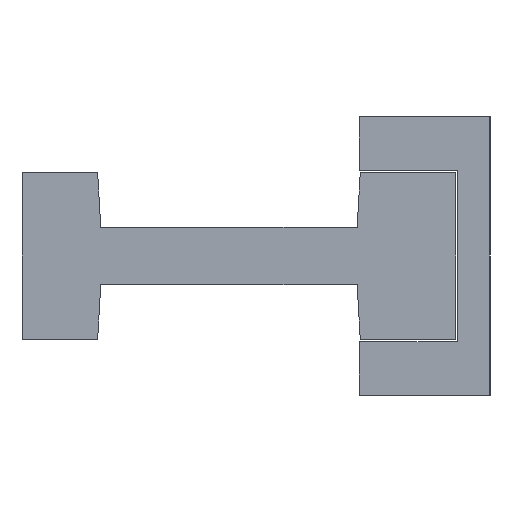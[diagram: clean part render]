
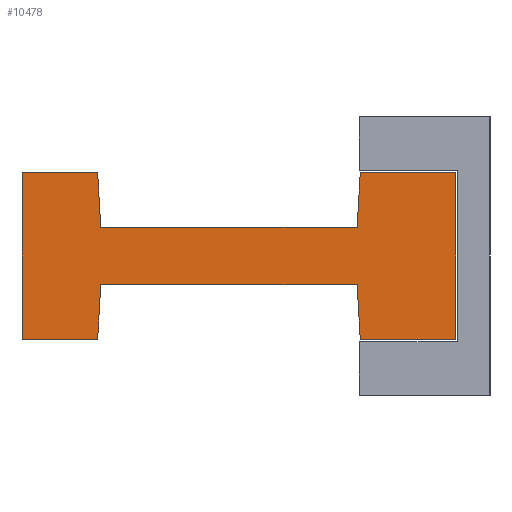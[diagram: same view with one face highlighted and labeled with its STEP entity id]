
A CAD part, left-side view. The second image highlights one B-rep face of the part: STEP entity #10478.
In plain terms, the highlighted planar face has unit normal (-1, 0, 0) as drawn and (0, 0, 1) by its records, which use the part's own axes.
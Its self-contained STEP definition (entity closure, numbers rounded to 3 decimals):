
#429 = CARTESIAN_POINT ( 'NONE',  ( 10.45, 0., 181. ) ) ;
#460 = EDGE_CURVE ( 'NONE', #13954, #5706, #6057, .T. ) ;
#538 = DIRECTION ( 'NONE',  ( 0., 1., 0. ) ) ;
#1276 = ORIENTED_EDGE ( 'NONE', *, *, #460, .T. ) ;
#2059 = DIRECTION ( 'NONE',  ( 0., 1., 0. ) ) ;
#2194 = EDGE_CURVE ( 'NONE', #10190, #26938, #25759, .T. ) ;
#2907 = DIRECTION ( 'NONE',  ( 0., 1., 0. ) ) ;
#3358 = CARTESIAN_POINT ( 'NONE',  ( -10.45, 42.5, 181. ) ) ;
#3416 = VERTEX_POINT ( 'NONE', #35796 ) ;
#3604 = CARTESIAN_POINT ( 'NONE',  ( 10.45, 9.5, 181. ) ) ;
#5528 = CARTESIAN_POINT ( 'NONE',  ( -10.45, 9.5, 181. ) ) ;
#5640 = ORIENTED_EDGE ( 'NONE', *, *, #9450, .F. ) ;
#5706 = VERTEX_POINT ( 'NONE', #3604 ) ;
#5808 = EDGE_CURVE ( 'NONE', #26938, #3416, #10998, .T. ) ;
#6057 = LINE ( 'NONE', #429, #12977 ) ;
#6281 = DIRECTION ( 'NONE',  ( -0.998, 0.058, 0. ) ) ;
#6381 = CARTESIAN_POINT ( 'NONE',  ( 10.45, 54.5, 181. ) ) ;
#6912 = ORIENTED_EDGE ( 'NONE', *, *, #30469, .T. ) ;
#7787 = VECTOR ( 'NONE', #32663, 1000. ) ;
#8135 = ORIENTED_EDGE ( 'NONE', *, *, #15084, .F. ) ;
#8154 = ORIENTED_EDGE ( 'NONE', *, *, #34846, .T. ) ;
#9406 = DIRECTION ( 'NONE',  ( -0.998, 0.058, 0. ) ) ;
#9450 = EDGE_CURVE ( 'NONE', #3416, #17103, #36838, .T. ) ;
#10069 = VECTOR ( 'NONE', #18710, 1000. ) ;
#10190 = VERTEX_POINT ( 'NONE', #26233 ) ;
#10194 = EDGE_CURVE ( 'NONE', #30676, #22663, #37707, .T. ) ;
#10221 = VECTOR ( 'NONE', #19780, 1000. ) ;
#10478 = ADVANCED_FACE ( 'NONE', ( #17636 ), #19689, .T. ) ;
#10831 = LINE ( 'NONE', #28973, #17722 ) ;
#10981 = CARTESIAN_POINT ( 'NONE',  ( 0., 0., 181. ) ) ;
#10984 = CARTESIAN_POINT ( 'NONE',  ( 0., 0., 181. ) ) ;
#10998 = LINE ( 'NONE', #15772, #10069 ) ;
#11293 = VERTEX_POINT ( 'NONE', #30261 ) ;
#11517 = LINE ( 'NONE', #19573, #27073 ) ;
#11661 = DIRECTION ( 'NONE',  ( 0.998, 0.058, 0. ) ) ;
#11873 = CARTESIAN_POINT ( 'NONE',  ( 3.6, 9.9, 181. ) ) ;
#12977 = VECTOR ( 'NONE', #23809, 1000. ) ;
#13562 = VECTOR ( 'NONE', #29285, 1000. ) ;
#13936 = CARTESIAN_POINT ( 'NONE',  ( 10.45, 42.5, 181. ) ) ;
#13941 = DIRECTION ( 'NONE',  ( 1., 0., 0. ) ) ;
#13944 = DIRECTION ( 'NONE',  ( 1., 0., 0. ) ) ;
#13954 = VERTEX_POINT ( 'NONE', #15455 ) ;
#14689 = LINE ( 'NONE', #29732, #7787 ) ;
#14747 = ORIENTED_EDGE ( 'NONE', *, *, #31062, .T. ) ;
#15084 = EDGE_CURVE ( 'NONE', #17103, #34537, #36224, .T. ) ;
#15325 = CARTESIAN_POINT ( 'NONE',  ( -3.6, 42.1, 181. ) ) ;
#15455 = CARTESIAN_POINT ( 'NONE',  ( 10.45, 0., 181. ) ) ;
#15772 = CARTESIAN_POINT ( 'NONE',  ( -3.6, 9.9, 181. ) ) ;
#17103 = VERTEX_POINT ( 'NONE', #31824 ) ;
#17592 = ORIENTED_EDGE ( 'NONE', *, *, #26451, .T. ) ;
#17636 = FACE_OUTER_BOUND ( 'NONE', #34716, .T. ) ;
#17722 = VECTOR ( 'NONE', #2907, 1000. ) ;
#18245 = ORIENTED_EDGE ( 'NONE', *, *, #31800, .T. ) ;
#18478 = VERTEX_POINT ( 'NONE', #11873 ) ;
#18710 = DIRECTION ( 'NONE',  ( 0.998, 0.058, 0. ) ) ;
#19573 = CARTESIAN_POINT ( 'NONE',  ( 3.6, 42.1, 181. ) ) ;
#19689 = PLANE ( 'NONE',  #29037 ) ;
#19780 = DIRECTION ( 'NONE',  ( 0., 1., 0. ) ) ;
#20210 = CARTESIAN_POINT ( 'NONE',  ( 3.6, 42.1, 181. ) ) ;
#22663 = VERTEX_POINT ( 'NONE', #13936 ) ;
#22786 = LINE ( 'NONE', #10981, #31453 ) ;
#23809 = DIRECTION ( 'NONE',  ( 0., 1., 0. ) ) ;
#23819 = CARTESIAN_POINT ( 'NONE',  ( 3.6, 9.9, 181. ) ) ;
#25312 = ORIENTED_EDGE ( 'NONE', *, *, #2194, .F. ) ;
#25675 = LINE ( 'NONE', #23819, #33428 ) ;
#25759 = LINE ( 'NONE', #34292, #10221 ) ;
#26233 = CARTESIAN_POINT ( 'NONE',  ( -10.45, 0., 181. ) ) ;
#26358 = CARTESIAN_POINT ( 'NONE',  ( -3.6, 42.1, 181. ) ) ;
#26451 = EDGE_CURVE ( 'NONE', #10190, #13954, #22786, .T. ) ;
#26938 = VERTEX_POINT ( 'NONE', #5528 ) ;
#27073 = VECTOR ( 'NONE', #2059, 1000. ) ;
#27379 = VECTOR ( 'NONE', #538, 1000. ) ;
#28189 = EDGE_CURVE ( 'NONE', #34537, #11293, #10831, .T. ) ;
#28973 = CARTESIAN_POINT ( 'NONE',  ( -10.45, 54.5, 181. ) ) ;
#29037 = AXIS2_PLACEMENT_3D ( 'NONE', #10984, #31409, #13944 ) ;
#29285 = DIRECTION ( 'NONE',  ( 0., 1., 0. ) ) ;
#29732 = CARTESIAN_POINT ( 'NONE',  ( 10.45, 54.5, 181. ) ) ;
#29962 = VECTOR ( 'NONE', #11661, 1000. ) ;
#30261 = CARTESIAN_POINT ( 'NONE',  ( -10.45, 54.5, 181. ) ) ;
#30469 = EDGE_CURVE ( 'NONE', #18478, #30676, #11517, .T. ) ;
#30676 = VERTEX_POINT ( 'NONE', #35604 ) ;
#31062 = EDGE_CURVE ( 'NONE', #5706, #18478, #25675, .T. ) ;
#31409 = DIRECTION ( 'NONE',  ( 0., 0., 1. ) ) ;
#31453 = VECTOR ( 'NONE', #13941, 1000. ) ;
#31800 = EDGE_CURVE ( 'NONE', #32647, #11293, #14689, .T. ) ;
#31824 = CARTESIAN_POINT ( 'NONE',  ( -3.6, 42.1, 181. ) ) ;
#32647 = VERTEX_POINT ( 'NONE', #37808 ) ;
#32663 = DIRECTION ( 'NONE',  ( -1., 0., 0. ) ) ;
#33156 = ORIENTED_EDGE ( 'NONE', *, *, #28189, .F. ) ;
#33428 = VECTOR ( 'NONE', #6281, 1000. ) ;
#33593 = ORIENTED_EDGE ( 'NONE', *, *, #10194, .T. ) ;
#34292 = CARTESIAN_POINT ( 'NONE',  ( -10.45, 0., 181. ) ) ;
#34537 = VERTEX_POINT ( 'NONE', #3358 ) ;
#34647 = ORIENTED_EDGE ( 'NONE', *, *, #5808, .F. ) ;
#34716 = EDGE_LOOP ( 'NONE', ( #18245, #33156, #8135, #5640, #34647, #25312, #17592, #1276, #14747, #6912, #33593, #8154 ) ) ;
#34846 = EDGE_CURVE ( 'NONE', #22663, #32647, #35097, .T. ) ;
#35097 = LINE ( 'NONE', #6381, #27379 ) ;
#35284 = VECTOR ( 'NONE', #9406, 1000. ) ;
#35604 = CARTESIAN_POINT ( 'NONE',  ( 3.6, 42.1, 181. ) ) ;
#35796 = CARTESIAN_POINT ( 'NONE',  ( -3.6, 9.9, 181. ) ) ;
#36224 = LINE ( 'NONE', #15325, #35284 ) ;
#36838 = LINE ( 'NONE', #26358, #13562 ) ;
#37707 = LINE ( 'NONE', #20210, #29962 ) ;
#37808 = CARTESIAN_POINT ( 'NONE',  ( 10.45, 54.5, 181. ) ) ;
